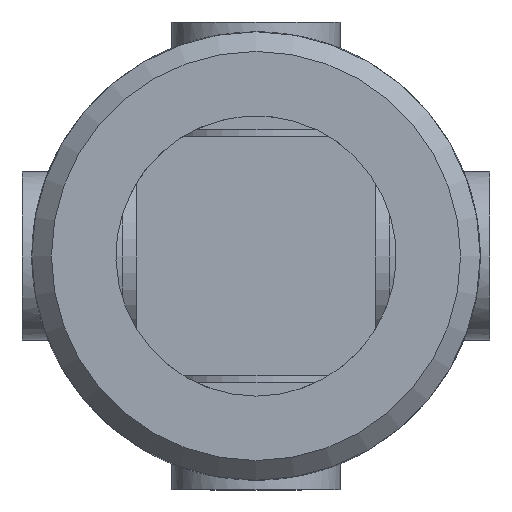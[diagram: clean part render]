
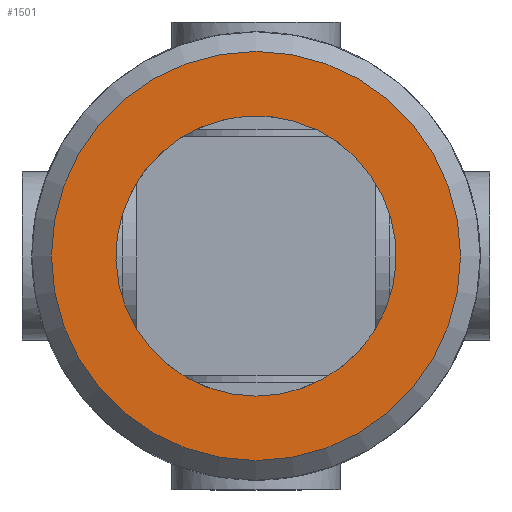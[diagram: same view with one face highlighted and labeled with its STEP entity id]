
A CAD part, front view. The second image highlights one B-rep face of the part: STEP entity #1501.
In plain terms, the highlighted planar face has unit normal (0, -1, 0).
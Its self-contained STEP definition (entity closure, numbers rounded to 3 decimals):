
#216=PLANE('',#1659);
#343=FACE_BOUND('',#555,.T.);
#423=FACE_OUTER_BOUND('',#554,.T.);
#554=EDGE_LOOP('',(#1321));
#555=EDGE_LOOP('',(#1322));
#631=CIRCLE('',#1644,5.);
#639=CIRCLE('',#1657,7.3);
#758=VERTEX_POINT('',#2878);
#772=VERTEX_POINT('',#2976);
#942=EDGE_CURVE('',#758,#758,#631,.T.);
#961=EDGE_CURVE('',#772,#772,#639,.T.);
#1321=ORIENTED_EDGE('',*,*,#961,.F.);
#1322=ORIENTED_EDGE('',*,*,#942,.T.);
#1501=ADVANCED_FACE('',(#423,#343),#216,.F.);
#1644=AXIS2_PLACEMENT_3D('',#2879,#1975,#1976);
#1657=AXIS2_PLACEMENT_3D('',#2977,#2006,#2007);
#1659=AXIS2_PLACEMENT_3D('',#3145,#2014,#2015);
#1975=DIRECTION('center_axis',(0.,1.,0.));
#1976=DIRECTION('ref_axis',(-1.,0.,0.));
#2006=DIRECTION('center_axis',(0.,1.,0.));
#2007=DIRECTION('ref_axis',(1.,0.,0.));
#2014=DIRECTION('center_axis',(0.,1.,0.));
#2015=DIRECTION('ref_axis',(0.,0.,1.));
#2878=CARTESIAN_POINT('',(5.,-30.,0.));
#2879=CARTESIAN_POINT('Origin',(0.,-30.,0.));
#2976=CARTESIAN_POINT('',(-7.3,-30.,0.));
#2977=CARTESIAN_POINT('Origin',(0.,-30.,0.));
#3145=CARTESIAN_POINT('Origin',(0.,-30.,0.));
